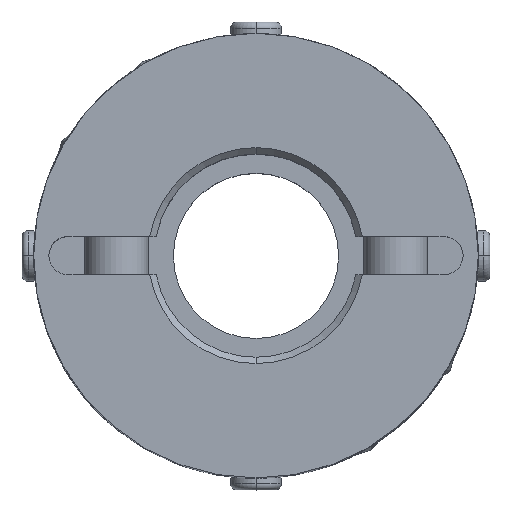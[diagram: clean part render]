
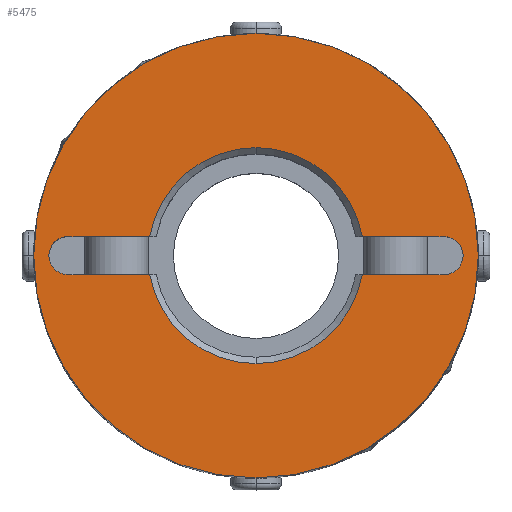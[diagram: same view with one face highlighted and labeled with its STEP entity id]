
A CAD part, top view. The second image highlights one B-rep face of the part: STEP entity #5475.
In plain terms, the highlighted planar face has unit normal (0, 0, 1).
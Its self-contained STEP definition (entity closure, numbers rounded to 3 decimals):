
#2886=CARTESIAN_POINT('',(15.861,1.061,17.5));
#2887=VERTEX_POINT('',#2886);
#2903=CARTESIAN_POINT('',(14.8,-1.5,17.5));
#2904=VERTEX_POINT('',#2903);
#2911=CARTESIAN_POINT('',(14.8,0.,17.5));
#2912=DIRECTION('',(0.0,0.0,1.0));
#2913=DIRECTION('',(0.707,-0.707,0.0));
#2914=AXIS2_PLACEMENT_3D('',#2911,#2912,#2913);
#2915=CIRCLE('',#2914,1.5);
#2916=EDGE_CURVE('',#2904,#2887,#2915,.T.);
#2928=CARTESIAN_POINT('',(-15.861,-1.061,17.5));
#2929=VERTEX_POINT('',#2928);
#2945=CARTESIAN_POINT('',(-14.8,1.5,17.5));
#2946=VERTEX_POINT('',#2945);
#2953=CARTESIAN_POINT('',(-14.8,0.,17.5));
#2954=DIRECTION('',(0.0,0.0,1.0));
#2955=DIRECTION('',(-0.707,0.707,0.0));
#2956=AXIS2_PLACEMENT_3D('',#2953,#2954,#2955);
#2957=CIRCLE('',#2956,1.5);
#2958=EDGE_CURVE('',#2946,#2929,#2957,.T.);
#3460=CARTESIAN_POINT('',(0.,17.5,17.5));
#3461=VERTEX_POINT('',#3460);
#3468=CARTESIAN_POINT('',(0.,-17.5,17.5));
#3469=VERTEX_POINT('',#3468);
#3470=CARTESIAN_POINT('',(0.0,0.0,17.5));
#3471=DIRECTION('',(0.0,0.0,-1.0));
#3472=DIRECTION('',(0.0,-1.0,0.0));
#3473=AXIS2_PLACEMENT_3D('',#3470,#3471,#3472);
#3474=CIRCLE('',#3473,17.5);
#3475=EDGE_CURVE('',#3461,#3469,#3474,.T.);
#4380=CARTESIAN_POINT('',(0.,8.5,17.5));
#4381=VERTEX_POINT('',#4380);
#4389=CARTESIAN_POINT('',(8.367,1.5,17.5));
#4390=VERTEX_POINT('',#4389);
#4404=CARTESIAN_POINT('',(0.,0.,17.5));
#4405=DIRECTION('',(0.0,0.0,1.0));
#4406=DIRECTION('',(0.0,1.0,0.0));
#4407=AXIS2_PLACEMENT_3D('',#4404,#4405,#4406);
#4408=CIRCLE('',#4407,8.5);
#4409=EDGE_CURVE('',#4390,#4381,#4408,.T.);
#4419=CARTESIAN_POINT('',(0.,-8.5,17.5));
#4420=VERTEX_POINT('',#4419);
#4436=CARTESIAN_POINT('',(-8.367,-1.5,17.5));
#4437=VERTEX_POINT('',#4436);
#4451=CARTESIAN_POINT('',(0.,0.,17.5));
#4452=DIRECTION('',(0.0,0.0,1.0));
#4453=DIRECTION('',(0.0,-1.0,0.0));
#4454=AXIS2_PLACEMENT_3D('',#4451,#4452,#4453);
#4455=CIRCLE('',#4454,8.5);
#4456=EDGE_CURVE('',#4437,#4420,#4455,.T.);
#5191=CARTESIAN_POINT('',(14.8,1.5,17.5));
#5192=VERTEX_POINT('',#5191);
#5199=CARTESIAN_POINT('',(8.367,1.5,17.5));
#5200=DIRECTION('',(1.0,0.0,0.0));
#5201=VECTOR('',#5200,6.433);
#5202=LINE('',#5199,#5201);
#5203=EDGE_CURVE('',#4390,#5192,#5202,.T.);
#5360=CARTESIAN_POINT('',(8.367,-1.5,17.5));
#5361=VERTEX_POINT('',#5360);
#5375=CARTESIAN_POINT('',(14.8,-1.5,17.5));
#5376=DIRECTION('',(-1.0,0.0,0.0));
#5377=VECTOR('',#5376,6.433);
#5378=LINE('',#5375,#5377);
#5379=EDGE_CURVE('',#2904,#5361,#5378,.T.);
#5402=CARTESIAN_POINT('',(0.,0.,17.5));
#5403=DIRECTION('',(0.0,0.0,1.0));
#5404=DIRECTION('',(0.0,-1.0,0.0));
#5405=AXIS2_PLACEMENT_3D('',#5402,#5403,#5404);
#5406=CIRCLE('',#5405,8.5);
#5407=EDGE_CURVE('',#4420,#5361,#5406,.T.);
#5414=CARTESIAN_POINT('',(0.,-1.591,17.5));
#5415=DIRECTION('',(0.0,0.0,1.0));
#5416=DIRECTION('',(0.0,-1.0,0.0));
#5417=AXIS2_PLACEMENT_3D('',#5414,#5415,#5416);
#5418=PLANE('',#5417);
#5419=CARTESIAN_POINT('',(0.0,0.0,17.5));
#5420=DIRECTION('',(0.0,0.0,-1.0));
#5421=DIRECTION('',(0.0,-1.0,0.0));
#5422=AXIS2_PLACEMENT_3D('',#5419,#5420,#5421);
#5423=CIRCLE('',#5422,17.5);
#5424=EDGE_CURVE('',#3469,#3461,#5423,.T.);
#5425=ORIENTED_EDGE('',*,*,#5424,.F.);
#5426=ORIENTED_EDGE('',*,*,#3475,.F.);
#5427=EDGE_LOOP('',(#5425,#5426));
#5428=FACE_OUTER_BOUND('',#5427,.T.);
#5429=ORIENTED_EDGE('',*,*,#4456,.F.);
#5430=CARTESIAN_POINT('',(-14.8,-1.5,17.5));
#5431=VERTEX_POINT('',#5430);
#5432=CARTESIAN_POINT('',(-8.367,-1.5,17.5));
#5433=DIRECTION('',(-1.0,0.0,0.0));
#5434=VECTOR('',#5433,6.433);
#5435=LINE('',#5432,#5434);
#5436=EDGE_CURVE('',#4437,#5431,#5435,.T.);
#5437=ORIENTED_EDGE('',*,*,#5436,.T.);
#5438=CARTESIAN_POINT('',(-14.8,0.,17.5));
#5439=DIRECTION('',(0.0,0.0,1.0));
#5440=DIRECTION('',(-0.707,0.707,0.0));
#5441=AXIS2_PLACEMENT_3D('',#5438,#5439,#5440);
#5442=CIRCLE('',#5441,1.5);
#5443=EDGE_CURVE('',#2929,#5431,#5442,.T.);
#5444=ORIENTED_EDGE('',*,*,#5443,.F.);
#5445=ORIENTED_EDGE('',*,*,#2958,.F.);
#5446=CARTESIAN_POINT('',(-8.367,1.5,17.5));
#5447=VERTEX_POINT('',#5446);
#5448=CARTESIAN_POINT('',(-14.8,1.5,17.5));
#5449=DIRECTION('',(1.0,0.0,0.0));
#5450=VECTOR('',#5449,6.433);
#5451=LINE('',#5448,#5450);
#5452=EDGE_CURVE('',#2946,#5447,#5451,.T.);
#5453=ORIENTED_EDGE('',*,*,#5452,.T.);
#5454=CARTESIAN_POINT('',(0.,0.,17.5));
#5455=DIRECTION('',(0.0,0.0,1.0));
#5456=DIRECTION('',(0.0,1.0,0.0));
#5457=AXIS2_PLACEMENT_3D('',#5454,#5455,#5456);
#5458=CIRCLE('',#5457,8.5);
#5459=EDGE_CURVE('',#4381,#5447,#5458,.T.);
#5460=ORIENTED_EDGE('',*,*,#5459,.F.);
#5461=ORIENTED_EDGE('',*,*,#4409,.F.);
#5462=ORIENTED_EDGE('',*,*,#5203,.T.);
#5463=CARTESIAN_POINT('',(14.8,0.,17.5));
#5464=DIRECTION('',(0.0,0.0,1.0));
#5465=DIRECTION('',(0.707,-0.707,0.0));
#5466=AXIS2_PLACEMENT_3D('',#5463,#5464,#5465);
#5467=CIRCLE('',#5466,1.5);
#5468=EDGE_CURVE('',#2887,#5192,#5467,.T.);
#5469=ORIENTED_EDGE('',*,*,#5468,.F.);
#5470=ORIENTED_EDGE('',*,*,#2916,.F.);
#5471=ORIENTED_EDGE('',*,*,#5379,.T.);
#5472=ORIENTED_EDGE('',*,*,#5407,.F.);
#5473=EDGE_LOOP('',(#5429,#5437,#5444,#5445,#5453,#5460,#5461,#5462,#5469,#5470,#5471,#5472));
#5474=FACE_BOUND('',#5473,.T.);
#5475=ADVANCED_FACE('',(#5428,#5474),#5418,.T.);
